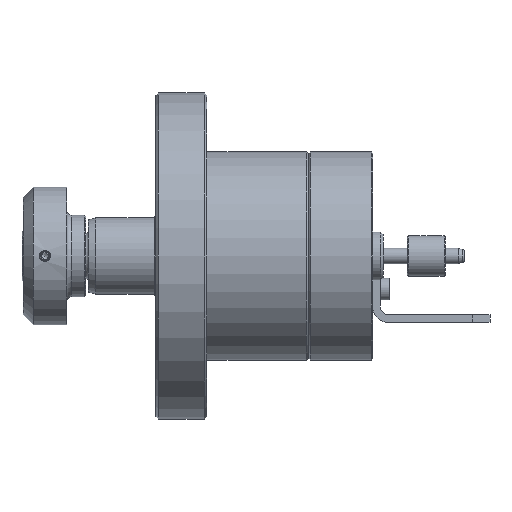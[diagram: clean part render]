
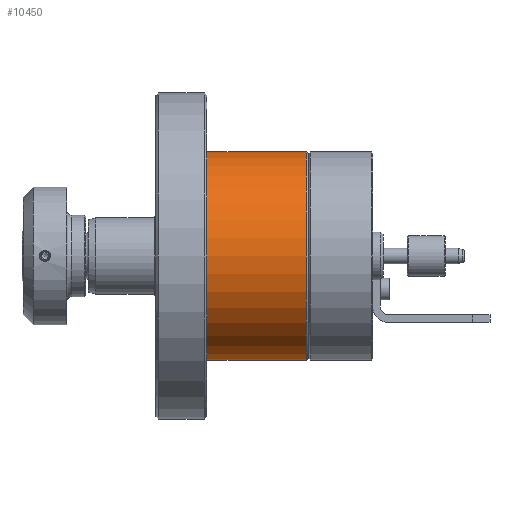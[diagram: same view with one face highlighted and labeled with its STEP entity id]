
A CAD part, front view. The second image highlights one B-rep face of the part: STEP entity #10450.
In plain terms, the highlighted cylindrical face has radius 40.95 mm (diameter 81.9 mm), a full revolution.
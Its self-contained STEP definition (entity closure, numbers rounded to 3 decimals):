
#408=CYLINDRICAL_SURFACE('',#11369,40.95);
#687=FACE_BOUND('',#2131,.T.);
#1283=FACE_OUTER_BOUND('',#2130,.T.);
#2130=EDGE_LOOP('',(#7447));
#2131=EDGE_LOOP('',(#7448));
#3020=CIRCLE('',#11365,40.95);
#3022=CIRCLE('',#11370,40.95);
#4769=VERTEX_POINT('',#16380);
#4771=VERTEX_POINT('',#16387);
#5809=EDGE_CURVE('',#4769,#4769,#3020,.T.);
#5811=EDGE_CURVE('',#4771,#4771,#3022,.T.);
#7447=ORIENTED_EDGE('',*,*,#5809,.T.);
#7448=ORIENTED_EDGE('',*,*,#5811,.F.);
#10450=ADVANCED_FACE('',(#1283,#687),#408,.T.);
#11365=AXIS2_PLACEMENT_3D('',#16381,#13001,#13002);
#11369=AXIS2_PLACEMENT_3D('',#16386,#13009,#13010);
#11370=AXIS2_PLACEMENT_3D('',#16388,#13011,#13012);
#13001=DIRECTION('center_axis',(1.,0.,0.));
#13002=DIRECTION('ref_axis',(0.,1.,0.));
#13009=DIRECTION('center_axis',(1.,0.,0.));
#13010=DIRECTION('ref_axis',(0.,1.,0.));
#13011=DIRECTION('center_axis',(1.,0.,0.));
#13012=DIRECTION('ref_axis',(0.,-1.,0.));
#16380=CARTESIAN_POINT('',(20.,40.95,0.));
#16381=CARTESIAN_POINT('Origin',(20.,0.,0.));
#16386=CARTESIAN_POINT('Origin',(40.,0.,0.));
#16387=CARTESIAN_POINT('',(59.,40.95,0.));
#16388=CARTESIAN_POINT('Origin',(59.,0.,0.));
